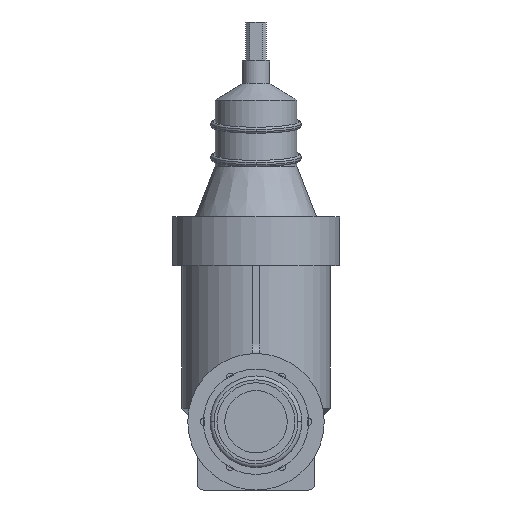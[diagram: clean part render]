
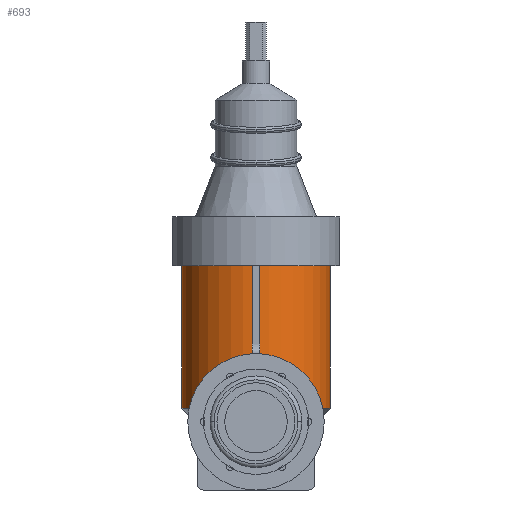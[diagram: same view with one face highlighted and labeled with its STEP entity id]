
A CAD part, left-side view. The second image highlights one B-rep face of the part: STEP entity #693.
In plain terms, the highlighted cylindrical face has radius 38 mm (diameter 76 mm), a partial arc.
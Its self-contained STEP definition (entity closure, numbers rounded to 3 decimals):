
#693=ADVANCED_FACE('',(#1341),#1342,.T.);
#1341=FACE_OUTER_BOUND('',#2200,.T.);
#1342=CYLINDRICAL_SURFACE('',#2201,38.0);
#2200=EDGE_LOOP('',(#3104,#3105,#3106,#3107));
#2201=AXIS2_PLACEMENT_3D('',#3108,#3109,#3110);
#3104=ORIENTED_EDGE('',*,*,#4524,.T.);
#3105=ORIENTED_EDGE('',*,*,#4525,.T.);
#3106=ORIENTED_EDGE('',*,*,#4526,.T.);
#3107=ORIENTED_EDGE('',*,*,#4423,.T.);
#3108=CARTESIAN_POINT('',(0.0,0.,7.0));
#3109=DIRECTION('',(0.0,0.,1.0));
#3110=DIRECTION('',(0.0,-1.0,0.));
#4423=EDGE_CURVE('',#5136,#5135,#5138,.T.);
#4524=EDGE_CURVE('',#5135,#5297,#5298,.T.);
#4525=EDGE_CURVE('',#5297,#5299,#5300,.T.);
#4526=EDGE_CURVE('',#5299,#5136,#5301,.T.);
#5135=VERTEX_POINT('',#6067);
#5136=VERTEX_POINT('',#6068);
#5138=CIRCLE('',#6070,38.0);
#5297=VERTEX_POINT('',#6262);
#5298=LINE('',#6263,#6264);
#5299=VERTEX_POINT('',#6265);
#5300=CIRCLE('',#6266,38.0);
#5301=LINE('',#6267,#6268);
#6067=CARTESIAN_POINT('',(0.0,-38.0,7.0));
#6068=CARTESIAN_POINT('',(0.,38.0,7.0));
#6070=AXIS2_PLACEMENT_3D('',#7067,#7068,#7069);
#6262=CARTESIAN_POINT('',(0.0,-38.0,80.0));
#6263=CARTESIAN_POINT('',(0.,-38.0,7.0));
#6264=VECTOR('',#7226,1.0);
#6265=CARTESIAN_POINT('',(0.,38.0,80.0));
#6266=AXIS2_PLACEMENT_3D('',#7227,#7228,#7229);
#6267=CARTESIAN_POINT('',(0.,38.0,7.0));
#6268=VECTOR('',#7230,1.0);
#7067=CARTESIAN_POINT('',(0.0,0.,7.0));
#7068=DIRECTION('',(0.0,0.,1.0));
#7069=DIRECTION('',(0.0,-1.0,0.));
#7226=DIRECTION('',(0.0,0.,1.0));
#7227=CARTESIAN_POINT('',(0.0,0.,80.0));
#7228=DIRECTION('',(-0.0,0.,-1.0));
#7229=DIRECTION('',(0.0,-1.0,0.));
#7230=DIRECTION('',(-0.0,0.,-1.0));
